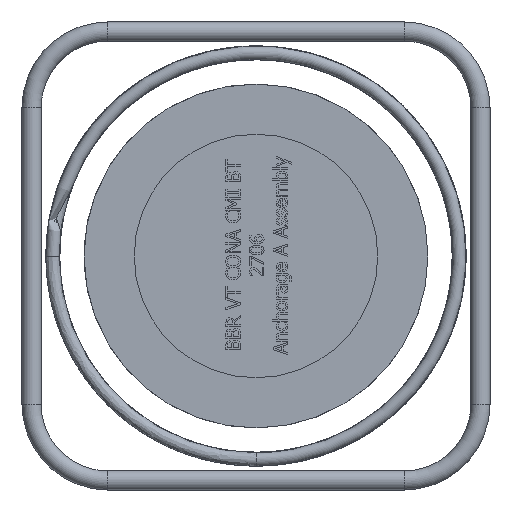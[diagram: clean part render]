
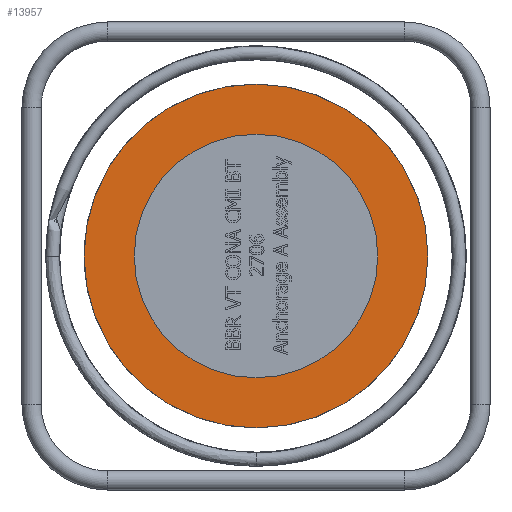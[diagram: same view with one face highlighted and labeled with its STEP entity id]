
A CAD part, left-side view. The second image highlights one B-rep face of the part: STEP entity #13957.
In plain terms, the highlighted planar face has unit normal (-1, 0, 0).
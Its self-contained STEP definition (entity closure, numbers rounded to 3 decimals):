
#3377=PLANE('',#14477);
#3510=FACE_BOUND('',#5087,.T.);
#4240=FACE_OUTER_BOUND('',#5086,.T.);
#5086=EDGE_LOOP('',(#11962));
#5087=EDGE_LOOP('',(#11963));
#5412=CIRCLE('',#14478,180.);
#5413=CIRCLE('',#14479,127.5);
#6671=VERTEX_POINT('',#24210);
#6672=VERTEX_POINT('',#24212);
#8487=EDGE_CURVE('',#6671,#6671,#5412,.T.);
#8488=EDGE_CURVE('',#6672,#6672,#5413,.T.);
#11962=ORIENTED_EDGE('',*,*,#8487,.T.);
#11963=ORIENTED_EDGE('',*,*,#8488,.F.);
#13957=ADVANCED_FACE('',(#4240,#3510),#3377,.T.);
#14477=AXIS2_PLACEMENT_3D('',#24209,#16525,#16526);
#14478=AXIS2_PLACEMENT_3D('',#24211,#16527,#16528);
#14479=AXIS2_PLACEMENT_3D('',#24213,#16529,#16530);
#16525=DIRECTION('center_axis',(-1.,0.,0.));
#16526=DIRECTION('ref_axis',(0.,0.,1.));
#16527=DIRECTION('center_axis',(-1.,0.,0.));
#16528=DIRECTION('ref_axis',(0.,-1.,0.));
#16529=DIRECTION('center_axis',(-1.,0.,0.));
#16530=DIRECTION('ref_axis',(0.,-1.,0.));
#24209=CARTESIAN_POINT('Origin',(-250.,-142.25,0.));
#24210=CARTESIAN_POINT('',(-250.,-180.,0.));
#24211=CARTESIAN_POINT('Origin',(-250.,0.,0.));
#24212=CARTESIAN_POINT('',(-250.,0.,-127.5));
#24213=CARTESIAN_POINT('Origin',(-250.,0.,0.));
